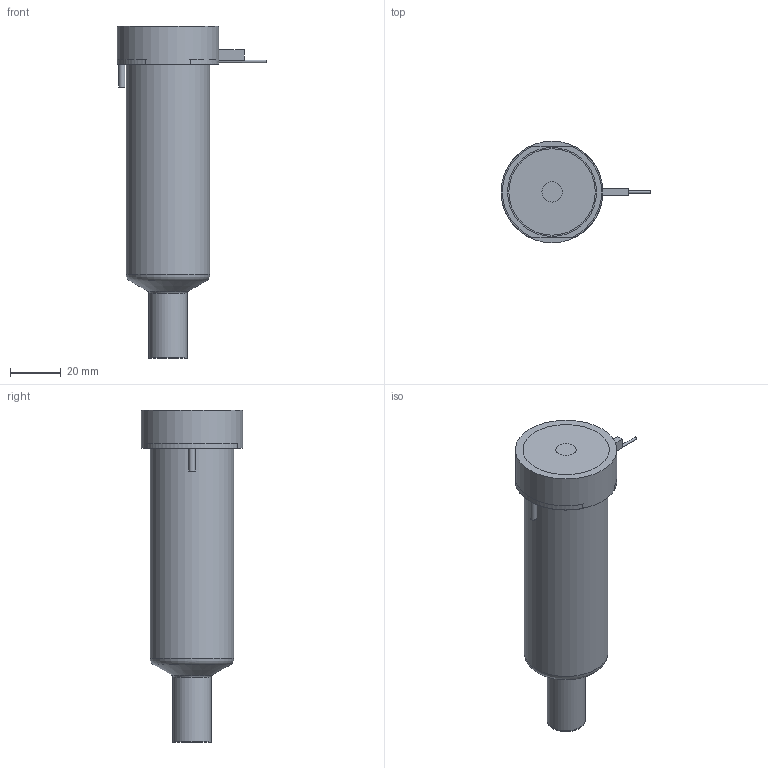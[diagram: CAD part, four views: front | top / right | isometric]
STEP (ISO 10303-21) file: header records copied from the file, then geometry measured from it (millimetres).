
FILE_DESCRIPTION(/* description */ (''),/* implementation_level */ '2;1');
FILE_NAME(/* name */ 'BXYCN19095P4U_250C_a',/* time_stamp */ '2016-02-23T09:37:51+13:00',/* author */ (''),/* organization */ (''),/* preprocessor_version */ 'ST-DEVELOPER v9',/* originating_system */ 'UGS - NX 4.0',/* authorisation */ '');
FILE_SCHEMA (('CONFIG_CONTROL_DESIGN'));
Length unit declared in the file: millimetre
Products named in the file (1): matt48E8ytb7
Bounding box: 58.85 x 40 x 130.6 mm (x, y, z)
Volume: 172541.5 mm3; surface area: 29049.6 mm2
Topology: 2 solids, 2 shells, 66 faces, 148 edges, 96 vertices
Faces by surface type: plane 31, cylinder 21, torus 7, cone 5, bspline 1, sphere 1
Full cylindrical faces by diameter (mm): 1 x2, 2 x1, 2.5 x1, 7 x1, 8 x1, 14.61 x1, 14.995 x2, 18.3 x1, 28.6 x1, 33 x1, 40 x1
Entity records: 1929 total; most frequent: CARTESIAN_POINT 483, DIRECTION 297, ORIENTED_EDGE 232, AXIS2_PLACEMENT_3D 127, EDGE_CURVE 116, EDGE_LOOP 102, VERTEX_POINT 88, ADVANCED_FACE 66
